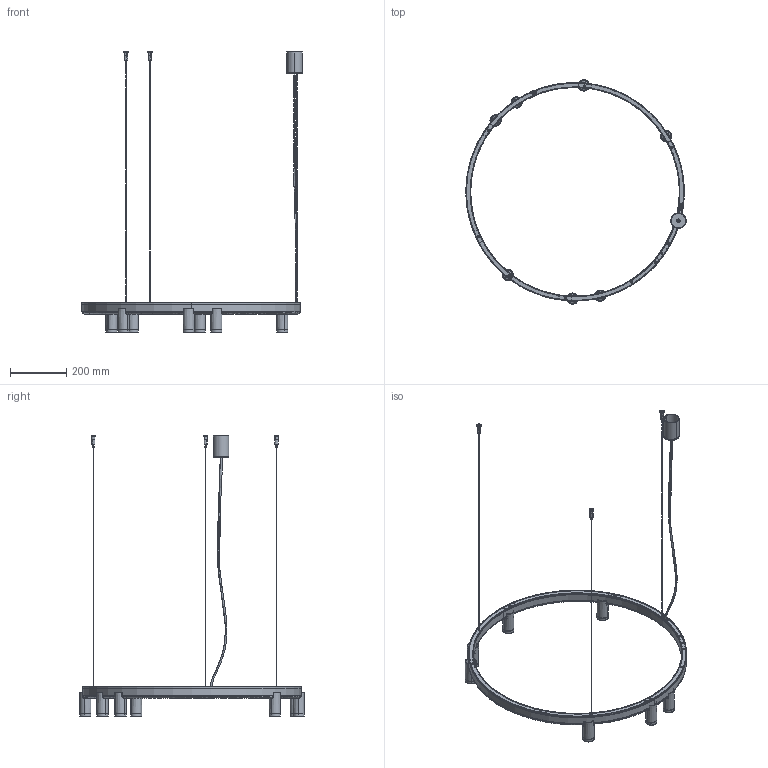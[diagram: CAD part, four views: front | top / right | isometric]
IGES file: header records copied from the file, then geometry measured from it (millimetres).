
Start section: SolidWorks IGES file using analytic representation for surfaces
Global section: file name: C:\Users\anna.bielnik\Desktop\FOURTY-ROUND-VII-12285-12284-12418-12283\fourty round VII zwis.IGS; native system: SolidWorks 2025; preprocessor: SolidWorks 2025; author: anna.bielnik; date: 260415.103422; units: millimetre
Bounding box: 786.67 x 801.41 x 1000 mm (x, y, z)
Surface area: 890276.4 mm2 (no closed solid volume)
Topology: 0 solids, 0 shells, 1602 faces, 28667 edges, 28646 vertices
Faces by surface type: revolution 868, bspline 734
